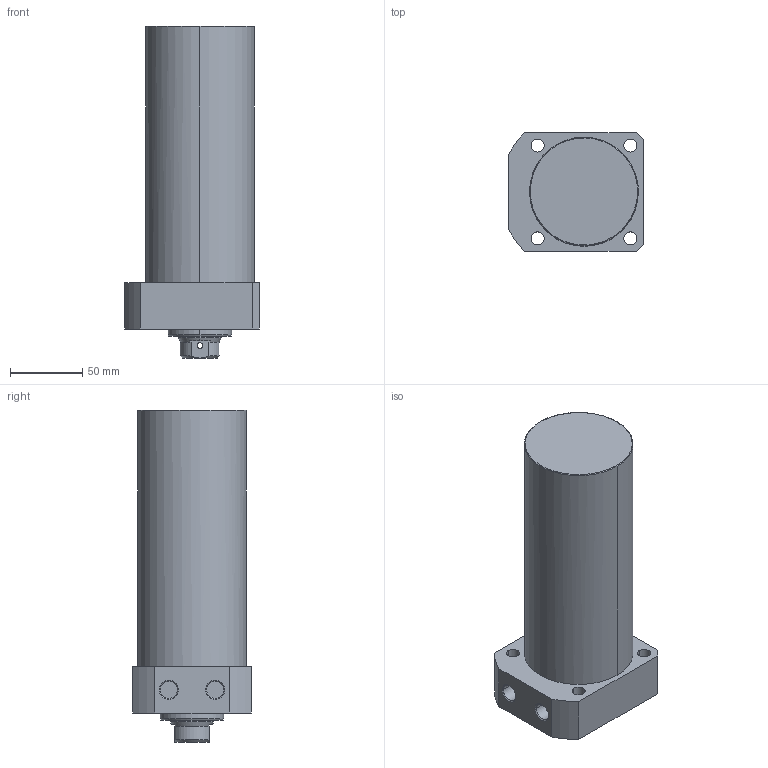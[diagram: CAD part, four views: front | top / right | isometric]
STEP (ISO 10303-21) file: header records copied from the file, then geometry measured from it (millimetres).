
FILE_DESCRIPTION((' '),'2;1');
FILE_NAME( 'TLLR-075CB-140.STEP.stp', '2025-10-24T16:35:10', (' '), ('--- Datakit www.datakit.com---'), ' Datakit CrossCadWare V2024.1 Dec 21 2023', 'Mastercam 2025', ' ');
FILE_SCHEMA(('AUTOMOTIVE_DESIGN { 1 0 10303 214 1 1 1 1 }'));
Length unit declared in the file: millimetre
Products named in the file (1): TLLR-075CB-140
Bounding box: 93 x 82 x 229 mm (x, y, z)
Volume: 1016934.8 mm3; surface area: 75444.7 mm2
Topology: 1 solids, 1 shells, 67 faces, 197 edges, 136 vertices
Faces by surface type: cylinder 32, plane 19, cone 14, torus 2
Entity records: 3386 total; most frequent: CARTESIAN_POINT 1467, DIRECTION 426, ORIENTED_EDGE 390, EDGE_CURVE 195, AXIS2_PLACEMENT_3D 179, VERTEX_POINT 136, CIRCLE 111, EDGE_LOOP 85
